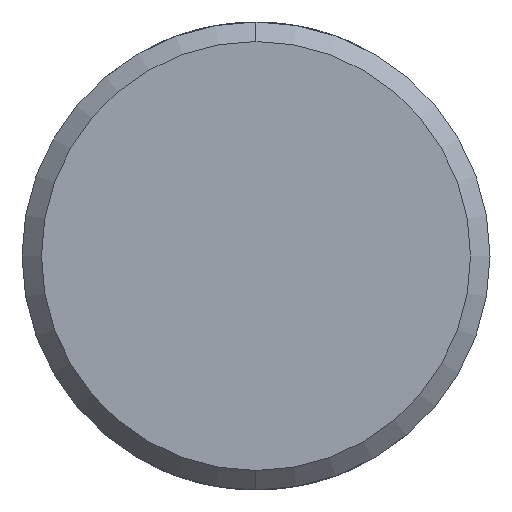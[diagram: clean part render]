
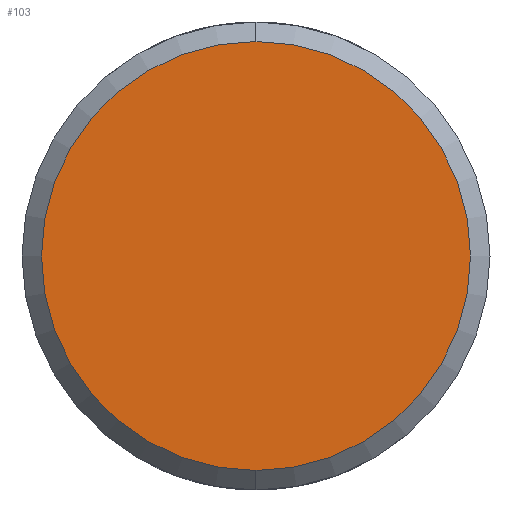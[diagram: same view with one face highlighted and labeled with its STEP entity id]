
A CAD part, left-side view. The second image highlights one B-rep face of the part: STEP entity #103.
In plain terms, the highlighted planar face has unit normal (-1, 0, 0).
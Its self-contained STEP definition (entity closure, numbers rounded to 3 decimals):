
#47 = DIRECTION ( 'NONE',  ( -1., 0., 0. ) ) ;
#89 = AXIS2_PLACEMENT_3D ( 'NONE', #205, #670, #581 ) ;
#103 = ADVANCED_FACE ( 'NONE', ( #395 ), #990, .F. ) ;
#135 = CIRCLE ( 'NONE', #341, 5.5 ) ;
#173 = DIRECTION ( 'NONE',  ( 0., 0., -1. ) ) ;
#205 = CARTESIAN_POINT ( 'NONE',  ( -114.5, 0., 0. ) ) ;
#207 = CARTESIAN_POINT ( 'NONE',  ( -114.5, 0., -5.5 ) ) ;
#248 = DIRECTION ( 'NONE',  ( 0., 0., -1. ) ) ;
#321 = CIRCLE ( 'NONE', #663, 5.5 ) ;
#341 = AXIS2_PLACEMENT_3D ( 'NONE', #723, #805, #173 ) ;
#370 = VERTEX_POINT ( 'NONE', #207 ) ;
#395 = FACE_OUTER_BOUND ( 'NONE', #995, .T. ) ;
#539 = VERTEX_POINT ( 'NONE', #940 ) ;
#581 = DIRECTION ( 'NONE',  ( 0., 0., -1. ) ) ;
#631 = ORIENTED_EDGE ( 'NONE', *, *, #689, .T. ) ;
#663 = AXIS2_PLACEMENT_3D ( 'NONE', #798, #47, #248 ) ;
#670 = DIRECTION ( 'NONE',  ( 1., 0., 0. ) ) ;
#689 = EDGE_CURVE ( 'NONE', #370, #539, #321, .T. ) ;
#723 = CARTESIAN_POINT ( 'NONE',  ( -114.5, 0., 0. ) ) ;
#741 = EDGE_CURVE ( 'NONE', #539, #370, #135, .T. ) ;
#798 = CARTESIAN_POINT ( 'NONE',  ( -114.5, 0., 0. ) ) ;
#805 = DIRECTION ( 'NONE',  ( -1., 0., 0. ) ) ;
#845 = ORIENTED_EDGE ( 'NONE', *, *, #741, .T. ) ;
#940 = CARTESIAN_POINT ( 'NONE',  ( -114.5, 0., 5.5 ) ) ;
#990 = PLANE ( 'NONE',  #89 ) ;
#995 = EDGE_LOOP ( 'NONE', ( #631, #845 ) ) ;
